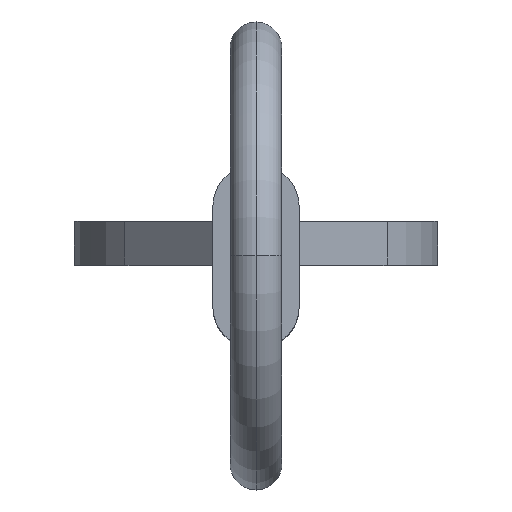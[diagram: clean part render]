
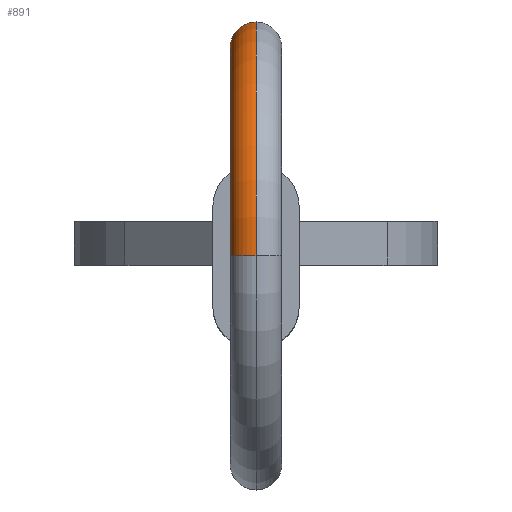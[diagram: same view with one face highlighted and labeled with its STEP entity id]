
A CAD part, top view. The second image highlights one B-rep face of the part: STEP entity #891.
In plain terms, the highlighted toroidal (fillet/blend) face has major radius 4.8 mm and minor radius 0.595 mm.
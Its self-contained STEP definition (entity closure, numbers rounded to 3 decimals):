
#19 = EDGE_CURVE ( 'NONE', #455, #796, #854, .T. ) ;
#38 = DIRECTION ( 'NONE',  ( 1., 0., 0. ) ) ;
#96 = CARTESIAN_POINT ( 'NONE',  ( 0., 2.888, 184.603 ) ) ;
#98 = CARTESIAN_POINT ( 'NONE',  ( 0., -1.133, 193.595 ) ) ;
#105 = FACE_OUTER_BOUND ( 'NONE', #240, .T. ) ;
#111 = TOROIDAL_SURFACE ( 'NONE', #918, 4.8, 0.595 ) ;
#120 = VERTEX_POINT ( 'NONE', #501 ) ;
#125 = CARTESIAN_POINT ( 'NONE',  ( 0., -1.133, 188.2 ) ) ;
#170 = DIRECTION ( 'NONE',  ( 0., -1., 0. ) ) ;
#173 = DIRECTION ( 'NONE',  ( 0., 0.667, 0.745 ) ) ;
#194 = DIRECTION ( 'NONE',  ( 0., 0., 1. ) ) ;
#240 = EDGE_LOOP ( 'NONE', ( #378, #417, #438, #355 ) ) ;
#245 = CARTESIAN_POINT ( 'NONE',  ( 0., 2.445, 185. ) ) ;
#257 = DIRECTION ( 'NONE',  ( 0., 0., 1. ) ) ;
#262 = CARTESIAN_POINT ( 'NONE',  ( 0., -1.133, 188.2 ) ) ;
#288 = DIRECTION ( 'NONE',  ( 0., 0., 1. ) ) ;
#301 = VERTEX_POINT ( 'NONE', #96 ) ;
#331 = CARTESIAN_POINT ( 'NONE',  ( 0., -1.133, 192.405 ) ) ;
#355 = ORIENTED_EDGE ( 'NONE', *, *, #747, .F. ) ;
#378 = ORIENTED_EDGE ( 'NONE', *, *, #19, .F. ) ;
#402 = AXIS2_PLACEMENT_3D ( 'NONE', #245, #173, #38 ) ;
#412 = EDGE_CURVE ( 'NONE', #301, #120, #807, .T. ) ;
#417 = ORIENTED_EDGE ( 'NONE', *, *, #503, .T. ) ;
#438 = ORIENTED_EDGE ( 'NONE', *, *, #412, .T. ) ;
#454 = CARTESIAN_POINT ( 'NONE',  ( 0., -1.133, 193. ) ) ;
#455 = VERTEX_POINT ( 'NONE', #98 ) ;
#501 = CARTESIAN_POINT ( 'NONE',  ( 0., 2.001, 185.397 ) ) ;
#503 = EDGE_CURVE ( 'NONE', #455, #301, #683, .T. ) ;
#560 = CARTESIAN_POINT ( 'NONE',  ( 0., -1.133, 188.2 ) ) ;
#574 = DIRECTION ( 'NONE',  ( -1., 0., 0. ) ) ;
#614 = CIRCLE ( 'NONE', #760, 4.205 ) ;
#674 = DIRECTION ( 'NONE',  ( 0., 0., -1. ) ) ;
#683 = CIRCLE ( 'NONE', #743, 5.395 ) ;
#694 = AXIS2_PLACEMENT_3D ( 'NONE', #454, #170, #674 ) ;
#743 = AXIS2_PLACEMENT_3D ( 'NONE', #262, #849, #257 ) ;
#747 = EDGE_CURVE ( 'NONE', #796, #120, #614, .T. ) ;
#760 = AXIS2_PLACEMENT_3D ( 'NONE', #560, #927, #194 ) ;
#796 = VERTEX_POINT ( 'NONE', #331 ) ;
#807 = CIRCLE ( 'NONE', #402, 0.595 ) ;
#849 = DIRECTION ( 'NONE',  ( -1., 0., 0. ) ) ;
#854 = CIRCLE ( 'NONE', #694, 0.595 ) ;
#891 = ADVANCED_FACE ( 'NONE', ( #105 ), #111, .T. ) ;
#918 = AXIS2_PLACEMENT_3D ( 'NONE', #125, #574, #288 ) ;
#927 = DIRECTION ( 'NONE',  ( -1., 0., 0. ) ) ;
